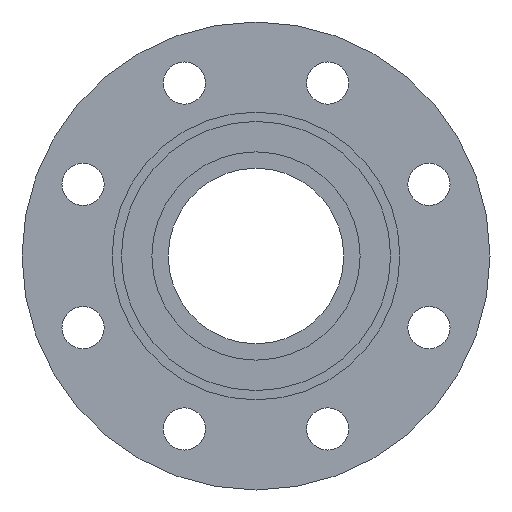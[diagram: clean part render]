
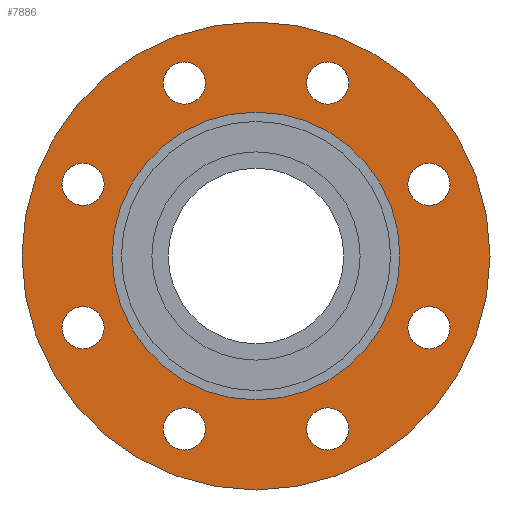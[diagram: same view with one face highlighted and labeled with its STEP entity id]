
A CAD part, left-side view. The second image highlights one B-rep face of the part: STEP entity #7886.
In plain terms, the highlighted planar face has unit normal (-1, 0, 0).
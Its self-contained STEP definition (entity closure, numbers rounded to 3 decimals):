
#7886=ADVANCED_FACE('',(#14127,#14129,#14131,#14133,#14135,#14137,#14139,#14141,
#14143,#14145),#14147,.T.);
#14127=FACE_BOUND('',#14128,.T.);
#14128=EDGE_LOOP('',(#19286,#19287));
#14129=FACE_BOUND('',#14130,.T.);
#14130=EDGE_LOOP('',(#19288));
#14131=FACE_BOUND('',#14132,.T.);
#14132=EDGE_LOOP('',(#19289));
#14133=FACE_BOUND('',#14134,.T.);
#14134=EDGE_LOOP('',(#19290));
#14135=FACE_BOUND('',#14136,.T.);
#14136=EDGE_LOOP('',(#19291));
#14137=FACE_BOUND('',#14138,.T.);
#14138=EDGE_LOOP('',(#19292));
#14139=FACE_BOUND('',#14140,.T.);
#14140=EDGE_LOOP('',(#19293));
#14141=FACE_BOUND('',#14142,.T.);
#14142=EDGE_LOOP('',(#19294));
#14143=FACE_BOUND('',#14144,.T.);
#14144=EDGE_LOOP('',(#19295,#19296));
#14145=FACE_BOUND('',#14146,.T.);
#14146=EDGE_LOOP('',(#19297));
#14147=PLANE('',#14148);
#14148=AXIS2_PLACEMENT_3D('',#14149,#14150,#14151);
#14149=CARTESIAN_POINT('',(8341.702,2184.775,0.));
#14150=DIRECTION('',(-1.,0.,0.));
#14151=DIRECTION('',(0.,0.,1.));
#19286=ORIENTED_EDGE('',*,*,#21877,.F.);
#19287=ORIENTED_EDGE('',*,*,#21878,.F.);
#19288=ORIENTED_EDGE('',*,*,#21820,.T.);
#19289=ORIENTED_EDGE('',*,*,#21822,.T.);
#19290=ORIENTED_EDGE('',*,*,#21824,.T.);
#19291=ORIENTED_EDGE('',*,*,#21826,.T.);
#19292=ORIENTED_EDGE('',*,*,#21828,.T.);
#19293=ORIENTED_EDGE('',*,*,#21830,.T.);
#19294=ORIENTED_EDGE('',*,*,#21832,.T.);
#19295=ORIENTED_EDGE('',*,*,#21875,.T.);
#19296=ORIENTED_EDGE('',*,*,#21876,.T.);
#19297=ORIENTED_EDGE('',*,*,#21818,.T.);
#21818=EDGE_CURVE('',#25984,#25984,#25985,.T.);
#21820=EDGE_CURVE('',#25988,#25988,#25989,.T.);
#21822=EDGE_CURVE('',#25992,#25992,#25993,.T.);
#21824=EDGE_CURVE('',#25996,#25996,#25997,.T.);
#21826=EDGE_CURVE('',#26000,#26000,#26001,.T.);
#21828=EDGE_CURVE('',#26004,#26004,#26005,.T.);
#21830=EDGE_CURVE('',#26008,#26008,#26009,.T.);
#21832=EDGE_CURVE('',#26012,#26012,#26013,.T.);
#21875=EDGE_CURVE('',#26098,#26099,#26100,.T.);
#21876=EDGE_CURVE('',#26099,#26098,#26101,.T.);
#21877=EDGE_CURVE('',#26102,#26103,#26104,.T.);
#21878=EDGE_CURVE('',#26103,#26102,#26105,.T.);
#25984=VERTEX_POINT('',#35138);
#25985=CIRCLE('',#35139,9.);
#25988=VERTEX_POINT('',#35148);
#25989=CIRCLE('',#35149,9.);
#25992=VERTEX_POINT('',#35158);
#25993=CIRCLE('',#35159,9.);
#25996=VERTEX_POINT('',#35168);
#25997=CIRCLE('',#35169,9.);
#26000=VERTEX_POINT('',#35178);
#26001=CIRCLE('',#35179,9.);
#26004=VERTEX_POINT('',#35188);
#26005=CIRCLE('',#35189,9.);
#26008=VERTEX_POINT('',#35198);
#26009=CIRCLE('',#35199,9.);
#26012=VERTEX_POINT('',#35208);
#26013=CIRCLE('',#35209,9.);
#26098=VERTEX_POINT('',#35423);
#26099=VERTEX_POINT('',#35424);
#26100=CIRCLE('',#35425,61.5);
#26101=CIRCLE('',#35429,61.5);
#26102=VERTEX_POINT('',#35433);
#26103=VERTEX_POINT('',#35434);
#26104=CIRCLE('',#35435,100.);
#26105=CIRCLE('',#35439,100.);
#35138=CARTESIAN_POINT('',(8341.702,2201.864,-30.615));
#35139=AXIS2_PLACEMENT_3D('',#35140,#35141,#35142);
#35140=CARTESIAN_POINT('',(8341.702,2210.864,-30.615));
#35141=DIRECTION('',(1.,0.,0.));
#35142=DIRECTION('',(0.,-1.,0.));
#35148=CARTESIAN_POINT('',(8341.702,2306.389,-73.91));
#35149=AXIS2_PLACEMENT_3D('',#35150,#35151,#35152);
#35150=CARTESIAN_POINT('',(8341.702,2315.389,-73.91));
#35151=DIRECTION('',(1.,0.,0.));
#35152=DIRECTION('',(0.,-1.,0.));
#35158=CARTESIAN_POINT('',(8341.702,2349.685,30.615));
#35159=AXIS2_PLACEMENT_3D('',#35160,#35161,#35162);
#35160=CARTESIAN_POINT('',(8341.702,2358.685,30.615));
#35161=DIRECTION('',(1.,0.,0.));
#35162=DIRECTION('',(0.,-1.,0.));
#35168=CARTESIAN_POINT('',(8341.702,2245.16,73.91));
#35169=AXIS2_PLACEMENT_3D('',#35170,#35171,#35172);
#35170=CARTESIAN_POINT('',(8341.702,2254.16,73.91));
#35171=DIRECTION('',(1.,0.,0.));
#35172=DIRECTION('',(0.,-1.,0.));
#35178=CARTESIAN_POINT('',(8341.702,2306.389,73.91));
#35179=AXIS2_PLACEMENT_3D('',#35180,#35181,#35182);
#35180=CARTESIAN_POINT('',(8341.702,2315.389,73.91));
#35181=DIRECTION('',(1.,0.,0.));
#35182=DIRECTION('',(0.,-1.,0.));
#35188=CARTESIAN_POINT('',(8341.702,2349.685,-30.615));
#35189=AXIS2_PLACEMENT_3D('',#35190,#35191,#35192);
#35190=CARTESIAN_POINT('',(8341.702,2358.685,-30.615));
#35191=DIRECTION('',(1.,0.,0.));
#35192=DIRECTION('',(0.,-1.,0.));
#35198=CARTESIAN_POINT('',(8341.702,2245.16,-73.91));
#35199=AXIS2_PLACEMENT_3D('',#35200,#35201,#35202);
#35200=CARTESIAN_POINT('',(8341.702,2254.16,-73.91));
#35201=DIRECTION('',(1.,0.,0.));
#35202=DIRECTION('',(0.,-1.,0.));
#35208=CARTESIAN_POINT('',(8341.702,2201.864,30.615));
#35209=AXIS2_PLACEMENT_3D('',#35210,#35211,#35212);
#35210=CARTESIAN_POINT('',(8341.702,2210.864,30.615));
#35211=DIRECTION('',(1.,0.,0.));
#35212=DIRECTION('',(0.,-1.,0.));
#35423=CARTESIAN_POINT('',(8341.702,2223.275,0.));
#35424=CARTESIAN_POINT('',(8341.702,2346.275,0.));
#35425=AXIS2_PLACEMENT_3D('',#35426,#35427,#35428);
#35426=CARTESIAN_POINT('',(8341.702,2284.775,0.));
#35427=DIRECTION('',(1.,0.,0.));
#35428=DIRECTION('',(0.,-1.,0.));
#35429=AXIS2_PLACEMENT_3D('',#35430,#35431,#35432);
#35430=CARTESIAN_POINT('',(8341.702,2284.775,0.));
#35431=DIRECTION('',(1.,0.,0.));
#35432=DIRECTION('',(0.,1.,0.));
#35433=CARTESIAN_POINT('',(8341.702,2384.775,0.));
#35434=CARTESIAN_POINT('',(8341.702,2184.775,0.));
#35435=AXIS2_PLACEMENT_3D('',#35436,#35437,#35438);
#35436=CARTESIAN_POINT('',(8341.702,2284.775,0.));
#35437=DIRECTION('',(1.,0.,0.));
#35438=DIRECTION('',(0.,1.,0.));
#35439=AXIS2_PLACEMENT_3D('',#35440,#35441,#35442);
#35440=CARTESIAN_POINT('',(8341.702,2284.775,0.));
#35441=DIRECTION('',(1.,0.,0.));
#35442=DIRECTION('',(0.,-1.,0.));
